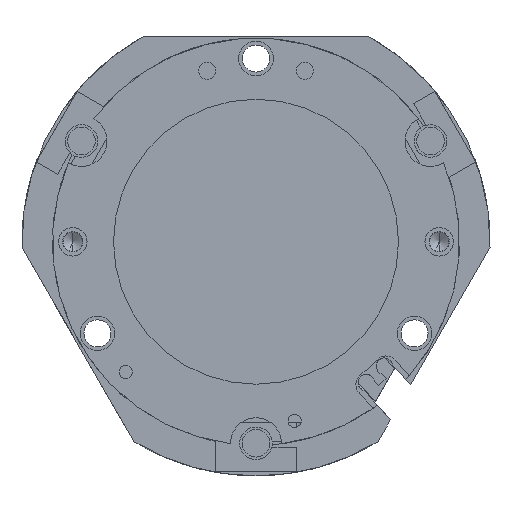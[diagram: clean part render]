
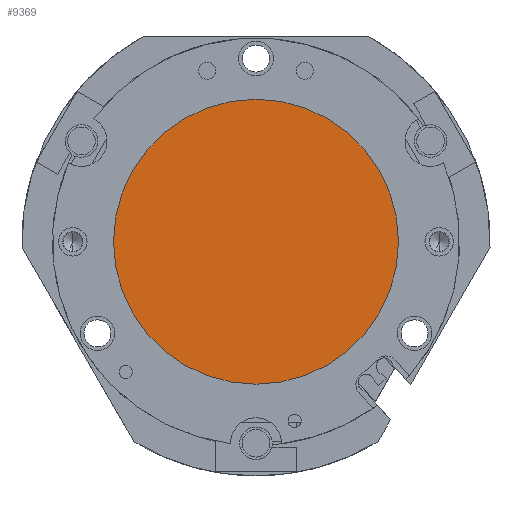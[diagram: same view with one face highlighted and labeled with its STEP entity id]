
A CAD part, front view. The second image highlights one B-rep face of the part: STEP entity #9369.
In plain terms, the highlighted planar face has unit normal (0, -1, 0) as drawn and (0, 1, 0) by its records, which use the part's own axes.
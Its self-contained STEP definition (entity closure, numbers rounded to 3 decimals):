
#590 = AXIS2_PLACEMENT_3D ( 'NONE', #2893, #4898, #10617 ) ;
#1887 = VERTEX_POINT ( 'NONE', #4934 ) ;
#2074 = CIRCLE ( 'NONE', #11928, 35. ) ;
#2298 = CARTESIAN_POINT ( 'NONE',  ( 0., 5.8, 0. ) ) ;
#2893 = CARTESIAN_POINT ( 'NONE',  ( 0., 5.8, 0. ) ) ;
#4792 = EDGE_LOOP ( 'NONE', ( #11010, #10747 ) ) ;
#4898 = DIRECTION ( 'NONE',  ( 0., 1., 0. ) ) ;
#4934 = CARTESIAN_POINT ( 'NONE',  ( 0., 5.8, 35. ) ) ;
#5399 = PLANE ( 'NONE',  #9225 ) ;
#6921 = EDGE_CURVE ( 'NONE', #1887, #11586, #8826, .T. ) ;
#8100 = EDGE_CURVE ( 'NONE', #11586, #1887, #2074, .T. ) ;
#8826 = CIRCLE ( 'NONE', #590, 35. ) ;
#9225 = AXIS2_PLACEMENT_3D ( 'NONE', #2298, #10156, #11180 ) ;
#9369 = ADVANCED_FACE ( 'NONE', ( #12266 ), #5399, .T. ) ;
#10112 = DIRECTION ( 'NONE',  ( 1., 0., 0. ) ) ;
#10156 = DIRECTION ( 'NONE',  ( 0., 1., 0. ) ) ;
#10275 = CARTESIAN_POINT ( 'NONE',  ( 0., 5.8, -35. ) ) ;
#10617 = DIRECTION ( 'NONE',  ( 1., 0., 0. ) ) ;
#10747 = ORIENTED_EDGE ( 'NONE', *, *, #8100, .T. ) ;
#11010 = ORIENTED_EDGE ( 'NONE', *, *, #6921, .T. ) ;
#11072 = DIRECTION ( 'NONE',  ( 0., 1., 0. ) ) ;
#11180 = DIRECTION ( 'NONE',  ( 1., 0., 0. ) ) ;
#11586 = VERTEX_POINT ( 'NONE', #10275 ) ;
#11928 = AXIS2_PLACEMENT_3D ( 'NONE', #12148, #11072, #10112 ) ;
#12148 = CARTESIAN_POINT ( 'NONE',  ( 0., 5.8, 0. ) ) ;
#12266 = FACE_OUTER_BOUND ( 'NONE', #4792, .T. ) ;
